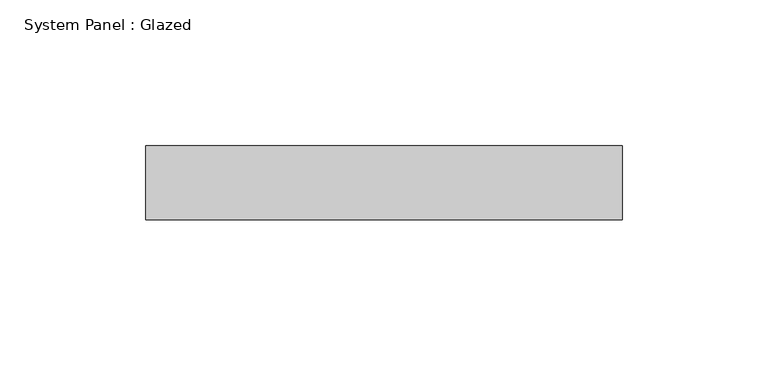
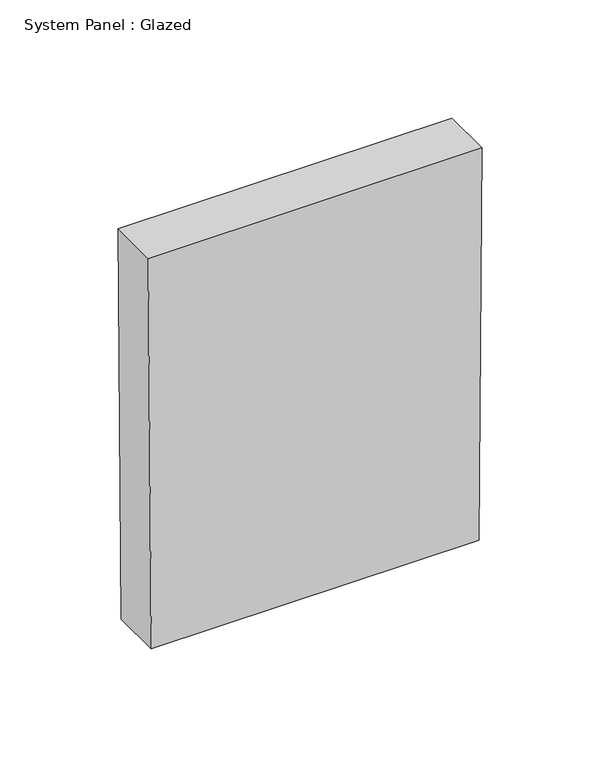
"""IFC4 building model written with IfcOpenShell, lengths in millimetres: plate geometry, System Panel : Glazed."""

from ifc_helpers import new_model, si_unit, frame, origin, place, context, project, spatial, polyline, outline, extrude, source, transform, mapped, element, save


def system_panel_glazed_ed9c6069(model_context):
    return source(origin(), model_context, "Body", "SweptSolid", [
        extrude(outline(polyline([(0.0, -80.3086243), (0.0, 80.3086243), (202.3987166, 81.7823943), (202.3987166, -81.7823943), (0.0, -80.3086243)])), frame((0.0, -44.45, 0.0), z_axis=(0.0, 1.0, 0.0), x_axis=(0.0, 0.0, 1.0)), (0.0, 0.0, 1.0), 25.4),
    ])


if __name__ == "__main__":
    model = new_model("IFC4")
    model_context = context("Model", 3, world=origin())
    ifc_project = project(units=[si_unit("LENGTHUNIT", "METRE", prefix="MILLI")], contexts=[model_context])
    site = spatial("IfcSite", under=ifc_project)
    building = spatial("IfcBuilding", under=site)
    placement = place(None, origin())
    system_panel_glazed_shape = system_panel_glazed_ed9c6069(model_context)
    element("IfcPlate", 1, ObjectType="System Panel : Glazed", at=placement, inside=building, context=model_context, shape_type="MappedRepresentation", body=[
        mapped(system_panel_glazed_shape, transform((0.0, 0.0, 0.0), x_axis=(1.0, 0.0, 0.0), y_axis=(0.0, 1.0, 0.0), z_axis=(0.0, 0.0, 1.0))),
    ])
    save(model, "model.ifc")
